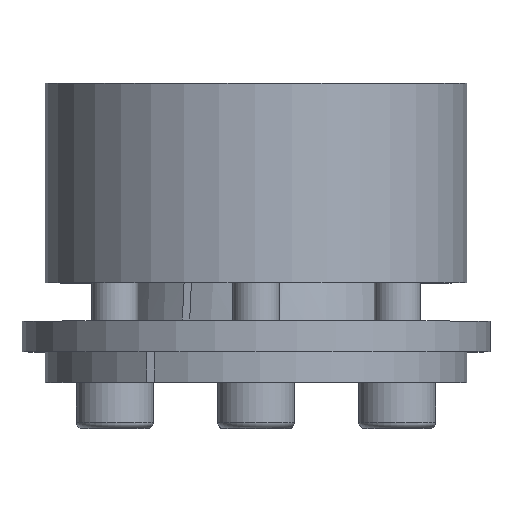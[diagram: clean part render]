
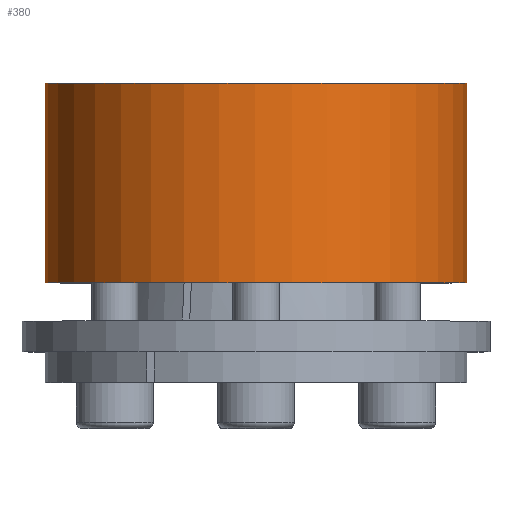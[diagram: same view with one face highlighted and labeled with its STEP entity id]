
A CAD part, top view. The second image highlights one B-rep face of the part: STEP entity #380.
In plain terms, the highlighted cylindrical face has radius 27.5 mm (diameter 55 mm), a partial arc.
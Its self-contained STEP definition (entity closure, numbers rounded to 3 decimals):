
#380 = ADVANCED_FACE( '', ( #618 ), #619, .T. );
#618 = FACE_OUTER_BOUND( '', #784, .T. );
#619 = CYLINDRICAL_SURFACE( '', #785, 27.5 );
#784 = EDGE_LOOP( '', ( #1092, #1093, #1094, #1095 ) );
#785 = AXIS2_PLACEMENT_3D( '', #1096, #1097, #1098 );
#1092 = ORIENTED_EDGE( '', *, *, #1442, .F. );
#1093 = ORIENTED_EDGE( '', *, *, #1423, .T. );
#1094 = ORIENTED_EDGE( '', *, *, #1444, .T. );
#1095 = ORIENTED_EDGE( '', *, *, #1445, .F. );
#1096 = CARTESIAN_POINT( '', ( 0., -60., 0. ) );
#1097 = DIRECTION( '', ( 0., 1., 0. ) );
#1098 = DIRECTION( '', ( 0., 0., -1. ) );
#1423 = EDGE_CURVE( '', #1617, #1626, #1628, .F. );
#1442 = EDGE_CURVE( '', #1617, #1657, #1658, .T. );
#1444 = EDGE_CURVE( '', #1626, #1660, #1661, .T. );
#1445 = EDGE_CURVE( '', #1657, #1660, #1662, .F. );
#1617 = VERTEX_POINT( '', #1817 );
#1626 = VERTEX_POINT( '', #1832 );
#1628 = LINE( '', #1835, #1836 );
#1657 = VERTEX_POINT( '', #1876 );
#1658 = CIRCLE( '', #1877, 27.5 );
#1660 = VERTEX_POINT( '', #1880 );
#1661 = CIRCLE( '', #1881, 27.5 );
#1662 = LINE( '', #1882, #1883 );
#1817 = CARTESIAN_POINT( '', ( 14.224, 13., -23.536 ) );
#1832 = CARTESIAN_POINT( '', ( 14.224, 39., -23.536 ) );
#1835 = CARTESIAN_POINT( '', ( 14.224, -60., -23.536 ) );
#1836 = VECTOR( '', #2016, 1000. );
#1876 = CARTESIAN_POINT( '', ( 13.271, 13., -24.086 ) );
#1877 = AXIS2_PLACEMENT_3D( '', #2052, #2053, #2054 );
#1880 = CARTESIAN_POINT( '', ( 13.271, 39., -24.086 ) );
#1881 = AXIS2_PLACEMENT_3D( '', #2056, #2057, #2058 );
#1882 = CARTESIAN_POINT( '', ( 13.271, -60., -24.086 ) );
#1883 = VECTOR( '', #2059, 1000. );
#2016 = DIRECTION( '', ( 0., -1., 0. ) );
#2052 = CARTESIAN_POINT( '', ( 0., 13., 0. ) );
#2053 = DIRECTION( '', ( 0., -1., 0. ) );
#2054 = DIRECTION( '', ( 0., 0., -1. ) );
#2056 = CARTESIAN_POINT( '', ( 0., 39., 0. ) );
#2057 = DIRECTION( '', ( 0., -1., 0. ) );
#2058 = DIRECTION( '', ( 0., 0., -1. ) );
#2059 = DIRECTION( '', ( 0., -1., 0. ) );
